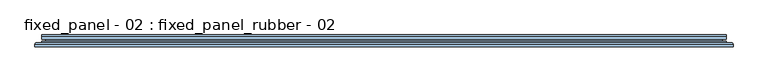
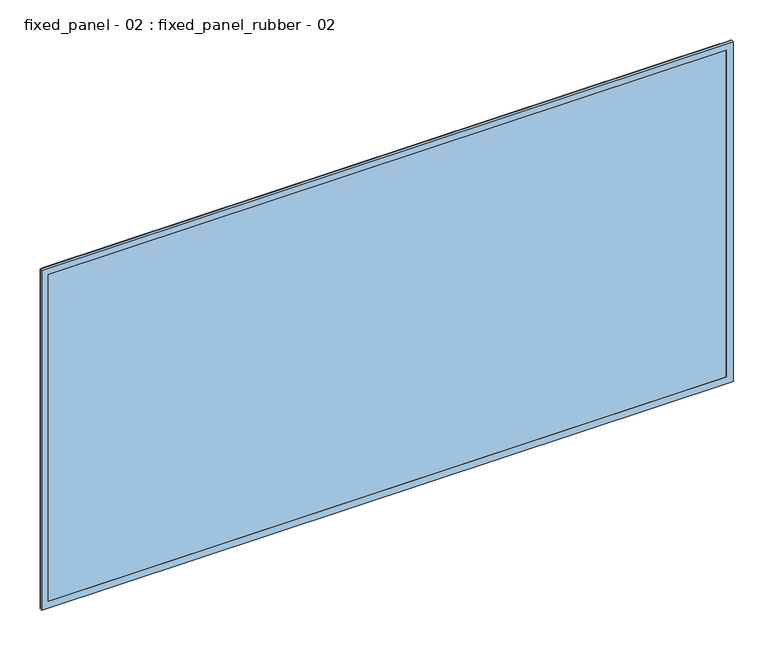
"""IFC4 building model written with IfcOpenShell, lengths in millimetres: window geometry, fixed_panel - 02 : fixed_panel_rubber - 02."""

from ifc_helpers import new_model, si_unit, frame, origin, place, context, project, spatial, polyline, ellipse_curve, outline, extrude, faceted_brep, source, transform, mapped, element, save
from ifc_brep_helpers import plane_surface, cylinder_surface, advanced_brep


def fixed_panel_02_fixed_panel_rubber_02_09232a5a(model_context):
    return source(origin(), model_context, "Body", "SolidModel", [
        advanced_brep(
        [(990.0018696, -27.9878211, 989.9842035), (995.0018696, -22.9878211, 994.9842035), (995.0018696, -22.9878211, -25.0), (990.0018696, -27.9878211, -20.0), (1004.9995476, -22.9878211, -34.9976779), (-1004.9995476, -22.9878211, -34.9976779), (-1004.9995476, -22.9878211, 1004.9818814), (1004.9995476, -22.9878211, 1004.9818814), (-995.0018696, -22.9878211, 994.9842035), (-995.0018696, -22.9878211, -25.0), (-990.0018696, -27.9878211, -20.0), (990.0018696, -34.0, 989.9842035), (990.0018696, -34.0, -20.0), (-990.0018696, -34.0, -20.0), (1009.9952231, -34.0, 1009.977557), (-1009.9952231, -34.0, 1009.977557), (-1009.9952231, -34.0, -39.9933535), (1009.9952231, -34.0, -39.9933535), (-990.0018696, -34.0, 989.9842035), (1009.9952231, -27.9834967, 1009.977557), (1009.9952231, -27.9834967, -39.9933535), (-1009.9952231, -27.9834967, -39.9933535), (-990.0018696, -27.9878211, 989.9842035), (-1009.9952231, -27.9834967, 1009.977557)],
        [
            (0, 1, ellipse_curve(frame((995.0018696, -27.9878211, 994.9842035), z_axis=(0.7071067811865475, 0.0, -0.7071067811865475), x_axis=(0.7071067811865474, 0.0, 0.7071067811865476)), 7.0710678, 5.0)),
            (1, 2),
            (2, 3, ellipse_curve(frame((995.0018696, -27.9878211, -25.0), z_axis=(0.7071067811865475, 0.0, 0.7071067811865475), x_axis=(-0.7071067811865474, 0.0, 0.7071067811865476)), 7.0710678, 5.0)),
            (3, 0),
            (4, 5),
            (5, 6),
            (6, 7),
            (7, 4),
            (1, 8),
            (8, 9),
            (9, 2),
            (9, 10, ellipse_curve(frame((-995.0018696, -27.9878211, -25.0), z_axis=(0.7071067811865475, 0.0, -0.7071067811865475), x_axis=(0.7071067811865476, 0.0, 0.7071067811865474)), 7.0710678, 5.0)),
            (10, 3),
            (11, 0),
            (3, 12),
            (12, 11),
            (10, 13),
            (13, 12),
            (14, 15),
            (15, 16),
            (16, 17),
            (17, 14),
            (13, 18),
            (18, 11),
            (19, 14),
            (17, 20),
            (20, 19),
            (16, 21),
            (21, 20),
            (7, 19, ellipse_curve(frame((1004.9995476, -27.9834967, 1004.9818814), z_axis=(0.7071067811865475, 0.0, -0.7071067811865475), x_axis=(0.7071067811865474, 0.0, 0.7071067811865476)), 7.0649521, 4.9956756)),
            (20, 4, ellipse_curve(frame((1004.9995476, -27.9834967, -34.9976779), z_axis=(0.7071067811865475, 0.0, 0.7071067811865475), x_axis=(-0.7071067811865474, 0.0, 0.7071067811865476)), 7.0649521, 4.9956756)),
            (21, 5, ellipse_curve(frame((-1004.9995476, -27.9834967, -34.9976779), z_axis=(0.7071067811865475, 0.0, -0.7071067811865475), x_axis=(0.7071067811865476, 0.0, 0.7071067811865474)), 7.0649521, 4.9956756)),
            (8, 22, ellipse_curve(frame((-995.0018696, -27.9878211, 994.9842035), z_axis=(-0.7071067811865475, 0.0, -0.7071067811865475), x_axis=(0.7071067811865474, 0.0, -0.7071067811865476)), 7.0710678, 5.0)),
            (22, 10),
            (22, 18),
            (15, 23),
            (23, 21),
            (23, 6, ellipse_curve(frame((-1004.9995476, -27.9834967, 1004.9818814), z_axis=(-0.7071067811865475, 0.0, -0.7071067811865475), x_axis=(0.7071067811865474, 0.0, -0.7071067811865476)), 7.0649521, 4.9956756)),
            (0, 22),
            (19, 23),
        ],
        [
            cylinder_surface(frame((995.0018696, -27.9878211, 989.9842035), z_axis=(0.0, 0.0, 1.0), x_axis=(1.0, 0.0, 0.0)), 5.0),
            plane_surface(frame((-1004.9995476, -22.9878211, 1004.9818814), z_axis=(0.0, 1.0, 0.0), x_axis=(1.0, 0.0, 0.0))),
            cylinder_surface(frame((990.0018696, -27.9878211, -25.0), z_axis=(1.0, 0.0, 0.0), x_axis=(0.0, 0.0, -1.0)), 5.0),
            plane_surface(frame((990.0018696, -27.9878211, 989.9842035), z_axis=(-1.0, 0.0, 0.0), x_axis=(0.0, 0.0, -1.0))),
            plane_surface(frame((990.0018696, -27.9878211, -20.0), z_axis=(0.0, 0.0, 1.0), x_axis=(-1.0, 0.0, 0.0))),
            plane_surface(frame((-990.0018696, -34.0, 989.9842035), z_axis=(0.0, -1.0, 0.0), x_axis=(1.0, 0.0, 0.0))),
            plane_surface(frame((1009.9952231, -34.0, 1009.977557), z_axis=(1.0, 0.0, 0.0), x_axis=(0.0, 0.0, -1.0))),
            plane_surface(frame((1009.9952231, -34.0, -39.9933535), z_axis=(0.0, 0.0, -1.0), x_axis=(-1.0, 0.0, 0.0))),
            cylinder_surface(frame((1004.9995476, -27.9834967, 989.9842035), z_axis=(0.0, 0.0, 1.0), x_axis=(1.0, 0.0, 0.0)), 4.9956756),
            cylinder_surface(frame((990.0018696, -27.9834967, -34.9976779), z_axis=(1.0, 0.0, 0.0), x_axis=(0.0, 0.0, -1.0)), 4.9956756),
            cylinder_surface(frame((-995.0018696, -27.9878211, -20.0), z_axis=(0.0, 0.0, -1.0), x_axis=(-1.0, 0.0, 0.0)), 5.0),
            plane_surface(frame((-990.0018696, -27.9878211, -20.0), z_axis=(1.0, 0.0, 0.0), x_axis=(0.0, 0.0, 1.0))),
            plane_surface(frame((-1009.9952231, -34.0, -39.9933535), z_axis=(-1.0, 0.0, 0.0), x_axis=(0.0, 0.0, 1.0))),
            cylinder_surface(frame((-1004.9995476, -27.9834967, -20.0), z_axis=(0.0, 0.0, -1.0), x_axis=(-1.0, 0.0, 0.0)), 4.9956756),
            cylinder_surface(frame((-990.0018696, -27.9878211, 994.9842035), z_axis=(-1.0, 0.0, 0.0), x_axis=(0.0, 0.0, 1.0)), 5.0),
            plane_surface(frame((-990.0018696, -27.9878211, 989.9842035), z_axis=(0.0, 0.0, -1.0), x_axis=(1.0, 0.0, 0.0))),
            plane_surface(frame((-1009.9952231, -34.0, 1009.977557), z_axis=(0.0, 0.0, 1.0), x_axis=(1.0, 0.0, 0.0))),
            cylinder_surface(frame((-990.0018696, -27.9834967, 1004.9818814), z_axis=(-1.0, 0.0, 0.0), x_axis=(0.0, 0.0, 1.0)), 4.9956756),
        ],
        [
            (0, [[1, 2, 3, 4]]),
            (1, [[5, 6, 7, 8], [9, 10, 11, -2]]),
            (2, [[-3, -11, 12, 13]]),
            (3, [[14, -4, 15, 16]]),
            (4, [[-15, -13, 17, 18]]),
            (5, [[19, 20, 21, 22], [-18, 23, 24, -16]]),
            (6, [[25, -22, 26, 27]]),
            (7, [[-26, -21, 28, 29]]),
            (8, [[30, -27, 31, -8]]),
            (9, [[-31, -29, 32, -5]]),
            (10, [[-12, -10, 33, 34]]),
            (11, [[-17, -34, 35, -23]]),
            (12, [[-28, -20, 36, 37]]),
            (13, [[-32, -37, 38, -6]]),
            (14, [[-33, -9, -1, 39]]),
            (15, [[-35, -39, -14, -24]]),
            (16, [[-36, -19, -25, 40]]),
            (17, [[-38, -40, -30, -7]]),
        ],
    ),
        faceted_brep([(964.0018696, -26.0, 963.9842035), (964.0018696, -6.0, 963.9842035), (964.0018696, -6.0, 6.0), (964.0018696, -26.0, 6.0), (990.0018696, -6.0, -20.0), (-990.0018696, -6.0, -20.0), (-990.0018696, -6.0, 989.9842035), (990.0018696, -6.0, 989.9842035), (-964.0018696, -6.0, 963.9842035), (-964.0018696, -6.0, 6.0), (-964.0018696, -26.0, 6.0), (990.0018696, -26.0, 989.9842035), (-990.0018696, -26.0, 989.9842035), (-990.0018696, -26.0, -20.0), (990.0018696, -26.0, -20.0), (-964.0018696, -26.0, 963.9842035), (990.0018696, -18.8, 989.9842035), (990.0018696, -18.8, -20.0), (-990.0018696, -18.8, -20.0), (-990.0018696, -18.8, 989.9842035), (979.0018696, -18.8, 978.9842035), (-979.0018696, -18.8, 978.9842035), (-979.0018696, -18.8, -9.0), (979.0018696, -18.8, -9.0), (979.0018696, -13.2, 978.9842035), (979.0018696, -13.2, -9.0), (-979.0018696, -13.2, -9.0), (990.0018696, -13.2, 989.9842035), (-990.0018696, -13.2, 989.9842035), (-990.0018696, -13.2, -20.0), (990.0018696, -13.2, -20.0), (-979.0018696, -13.2, 978.9842035)], [[[0, 1, 2, 3]], [[4, 5, 6, 7], [1, 8, 9, 2]], [[3, 2, 9, 10]], [[11, 12, 13, 14], [3, 10, 15, 0]], [[16, 11, 14, 17]], [[17, 14, 13, 18]], [[17, 18, 19, 16], [20, 21, 22, 23]], [[24, 20, 23, 25]], [[25, 23, 22, 26]], [[27, 28, 29, 30], [25, 26, 31, 24]], [[7, 27, 30, 4]], [[4, 30, 29, 5]], [[10, 9, 8, 15]], [[18, 13, 12, 19]], [[26, 22, 21, 31]], [[5, 29, 28, 6]], [[15, 8, 1, 0]], [[19, 12, 11, 16]], [[31, 21, 20, 24]], [[6, 28, 27, 7]]]),
        extrude(outline(polyline([(990.0018696, -34.0), (-990.0018696, -34.0), (-990.0018696, -26.0), (990.0018696, -26.0), (990.0018696, -34.0)])), frame((0.0, 0.0, -20.0), z_axis=(0.0, 0.0, 1.0), x_axis=(1.0, 0.0, 0.0)), (0.0, 0.0, 1.0), 1009.9842035),
        extrude(outline(polyline([(990.0018696, -6.0), (-990.0018696, -6.0), (-990.0018696, 0.0), (990.0018696, 0.0), (990.0018696, -6.0)])), frame((0.0, 0.0, -20.0), z_axis=(0.0, 0.0, 1.0), x_axis=(1.0, 0.0, 0.0)), (0.0, 0.0, 1.0), 1009.9842035),
    ])


if __name__ == "__main__":
    model = new_model("IFC4")
    model_context = context("Model", 3, world=origin())
    ifc_project = project(units=[si_unit("LENGTHUNIT", "METRE", prefix="MILLI")], contexts=[model_context])
    site = spatial("IfcSite", under=ifc_project)
    building = spatial("IfcBuilding", under=site)
    placement = place(None, origin())
    fixed_panel_02_fixed_panel_rubber_02_shape = fixed_panel_02_fixed_panel_rubber_02_09232a5a(model_context)
    element("IfcWindow", 1, ObjectType="fixed_panel - 02 : fixed_panel_rubber - 02", at=placement, inside=building, context=model_context, shape_type="MappedRepresentation", body=[
        mapped(fixed_panel_02_fixed_panel_rubber_02_shape, transform((0.0, 0.0, 0.0), x_axis=(1.0, 0.0, 0.0), y_axis=(0.0, 1.0, 0.0), z_axis=(0.0, 0.0, 1.0))),
    ])
    save(model, "model.ifc")
